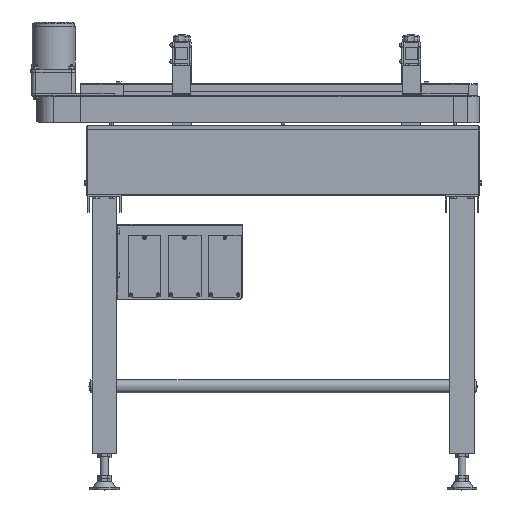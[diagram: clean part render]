
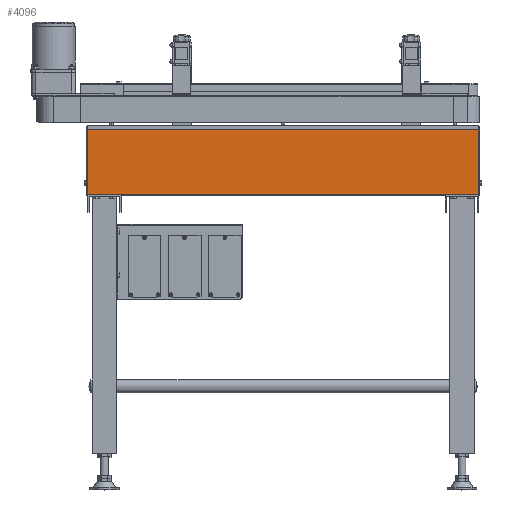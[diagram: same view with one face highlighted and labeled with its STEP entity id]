
A CAD part, top view. The second image highlights one B-rep face of the part: STEP entity #4096.
In plain terms, the highlighted planar face has unit normal (0, 0, 1).
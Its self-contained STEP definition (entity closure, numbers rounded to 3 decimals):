
#4096=ADVANCED_FACE('',(#13659),#13658,.F.);
#13658=PLANE('',#40212);
#13659=FACE_OUTER_BOUND('',#40213,.T.);
#40209=CARTESIAN_POINT('',(-10.,-150.,300.));
#40210=DIRECTION('',(0.,0.,-1.));
#40211=DIRECTION('',(0.,1.,0.));
#40212=AXIS2_PLACEMENT_3D('',#40209,#40210,#40211);
#40213=EDGE_LOOP('',(#57933,#57934,#57935,#57936));
#57933=ORIENTED_EDGE('',*,*,#71172,.F.);
#57934=ORIENTED_EDGE('',*,*,#70866,.T.);
#57935=ORIENTED_EDGE('',*,*,#71199,.T.);
#57936=ORIENTED_EDGE('',*,*,#71200,.F.);
#70866=EDGE_CURVE('',#88338,#88339,#88340,.T.);
#71172=EDGE_CURVE('',#88338,#90373,#90374,.T.);
#71199=EDGE_CURVE('',#88339,#90553,#90554,.T.);
#71200=EDGE_CURVE('',#90373,#90553,#90560,.T.);
#88338=VERTEX_POINT('',#134359);
#88339=VERTEX_POINT('',#134360);
#88340=LINE('',#134361,#134362);
#90373=VERTEX_POINT('',#135476);
#90374=LINE('',#135477,#135478);
#90553=VERTEX_POINT('',#135575);
#90554=LINE('',#135576,#135577);
#90560=LINE('',#135579,#135580);
#134359=CARTESIAN_POINT('',(810.,-6.,300.));
#134360=CARTESIAN_POINT('',(0.,-6.,300.));
#134361=CARTESIAN_POINT('',(810.,-6.,300.));
#134362=VECTOR('',#134363,810.);
#134363=DIRECTION('',(-1.,0.,0.));
#135476=CARTESIAN_POINT('',(810.,-140.,300.));
#135477=CARTESIAN_POINT('',(810.,-6.,300.));
#135478=VECTOR('',#135479,134.);
#135479=DIRECTION('',(0.,-1.,0.));
#135575=CARTESIAN_POINT('',(0.,-140.,300.));
#135576=CARTESIAN_POINT('',(0.,-6.,300.));
#135577=VECTOR('',#135578,134.);
#135578=DIRECTION('',(0.,-1.,0.));
#135579=CARTESIAN_POINT('',(810.,-140.,300.));
#135580=VECTOR('',#135581,810.);
#135581=DIRECTION('',(-1.,0.,0.));
